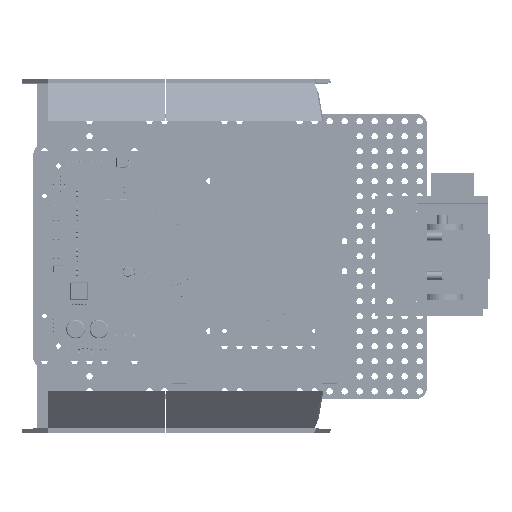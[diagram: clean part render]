
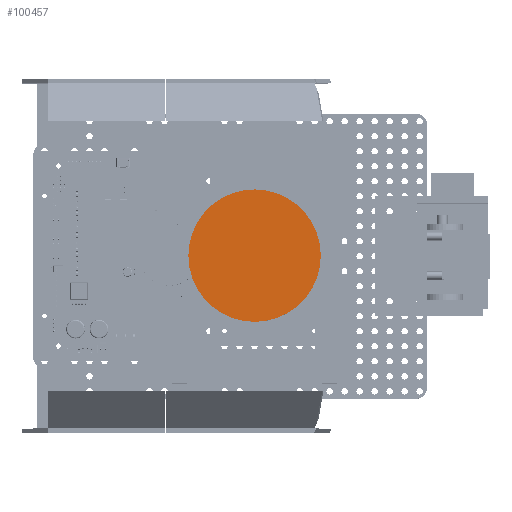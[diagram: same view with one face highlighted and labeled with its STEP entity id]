
A CAD part, top view. The second image highlights one B-rep face of the part: STEP entity #100457.
In plain terms, the highlighted planar face has unit normal (0, 0, 1).
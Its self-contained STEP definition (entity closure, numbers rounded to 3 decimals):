
#100373 = EDGE_CURVE('',#100374,#100374,#100376,.T.);
#100374 = VERTEX_POINT('',#100375);
#100375 = CARTESIAN_POINT('',(35.3,0.,19.5));
#100376 = SURFACE_CURVE('',#100377,(#100382,#100394),.PCURVE_S1.);
#100377 = CIRCLE('',#100378,35.3);
#100378 = AXIS2_PLACEMENT_3D('',#100379,#100380,#100381);
#100379 = CARTESIAN_POINT('',(0.,0.,19.5));
#100380 = DIRECTION('',(0.,0.,1.));
#100381 = DIRECTION('',(1.,0.,-0.));
#100382 = PCURVE('',#100383,#100388);
#100383 = CYLINDRICAL_SURFACE('',#100384,35.3);
#100384 = AXIS2_PLACEMENT_3D('',#100385,#100386,#100387);
#100385 = CARTESIAN_POINT('',(0.,0.,0.));
#100386 = DIRECTION('',(0.,0.,1.));
#100387 = DIRECTION('',(1.,0.,-0.));
#100388 = DEFINITIONAL_REPRESENTATION('',(#100389),#100393);
#100389 = LINE('',#100390,#100391);
#100390 = CARTESIAN_POINT('',(0.,19.5));
#100391 = VECTOR('',#100392,1.);
#100392 = DIRECTION('',(1.,0.));
#100393 = ( GEOMETRIC_REPRESENTATION_CONTEXT(2) 
PARAMETRIC_REPRESENTATION_CONTEXT() REPRESENTATION_CONTEXT('2D SPACE',''
  ) );
#100394 = PCURVE('',#100395,#100400);
#100395 = PLANE('',#100396);
#100396 = AXIS2_PLACEMENT_3D('',#100397,#100398,#100399);
#100397 = CARTESIAN_POINT('',(0.,0.,19.5));
#100398 = DIRECTION('',(0.,0.,1.));
#100399 = DIRECTION('',(1.,0.,-0.));
#100400 = DEFINITIONAL_REPRESENTATION('',(#100401),#100405);
#100401 = CIRCLE('',#100402,35.3);
#100402 = AXIS2_PLACEMENT_2D('',#100403,#100404);
#100403 = CARTESIAN_POINT('',(0.,0.));
#100404 = DIRECTION('',(1.,0.));
#100405 = ( GEOMETRIC_REPRESENTATION_CONTEXT(2) 
PARAMETRIC_REPRESENTATION_CONTEXT() REPRESENTATION_CONTEXT('2D SPACE',''
  ) );
#100457 = ADVANCED_FACE('',(#100458),#100395,.T.);
#100458 = FACE_BOUND('',#100459,.T.);
#100459 = EDGE_LOOP('',(#100460));
#100460 = ORIENTED_EDGE('',*,*,#100373,.T.);
